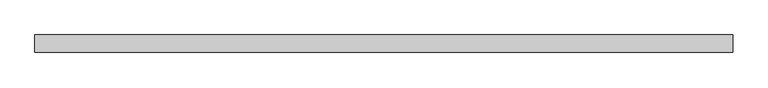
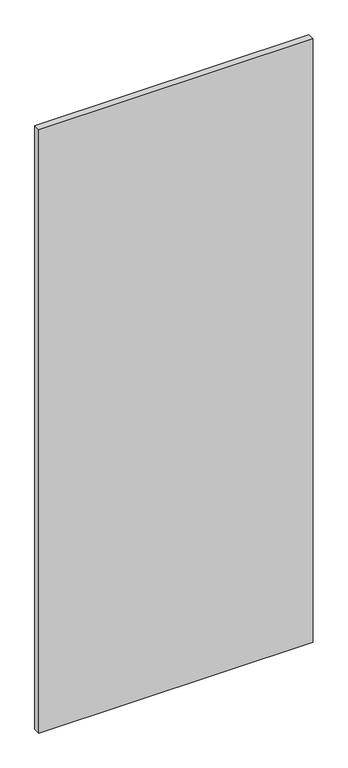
"""IFC4 building model written with IfcOpenShell, lengths in millimetres: plate geometry, 系统嵌板 : 玻璃."""

from ifc_helpers import new_model, si_unit, origin, origin_with_axes, place, context, project, spatial, polyline, outline, extrude, source, transform, mapped, element, save


def plate_497e7cac(model_context):
    return source(origin(), model_context, "Body", "SweptSolid", [
        extrude(outline(polyline([(500.0, -12.5), (-500.0, -12.5), (-500.0, 12.5), (500.0, 12.5), (500.0, -12.5)])), origin_with_axes(), (0.0, 0.0, 1.0), 2325.0),
    ])


if __name__ == "__main__":
    model = new_model("IFC4")
    model_context = context("Model", 3, world=origin())
    ifc_project = project(units=[si_unit("LENGTHUNIT", "METRE", prefix="MILLI")], contexts=[model_context])
    site = spatial("IfcSite", under=ifc_project)
    building = spatial("IfcBuilding", under=site)
    placement = place(None, origin())
    plate_shape = plate_497e7cac(model_context)
    element("IfcPlate", 1, ObjectType="系统嵌板 : 玻璃", at=placement, inside=building, context=model_context, shape_type="MappedRepresentation", body=[
        mapped(plate_shape, transform((0.0, 0.0, 0.0), x_axis=(1.0, 0.0, 0.0), y_axis=(0.0, 1.0, 0.0), z_axis=(0.0, 0.0, 1.0))),
    ])
    save(model, "model.ifc")
